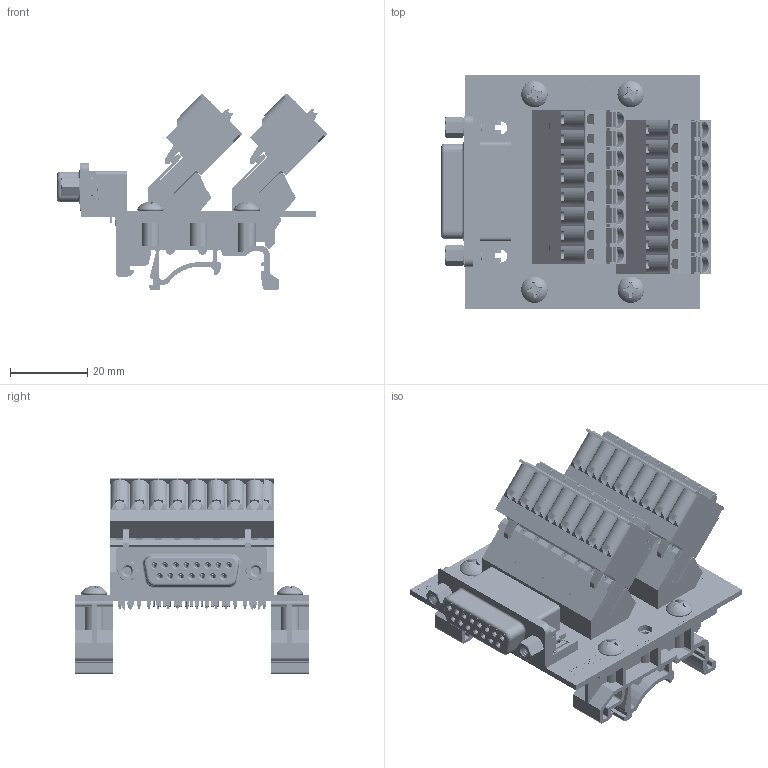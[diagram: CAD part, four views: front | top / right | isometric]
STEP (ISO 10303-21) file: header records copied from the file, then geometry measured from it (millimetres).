
FILE_DESCRIPTION (( 'STEP AP214' ), '1' );
FILE_NAME ('brkld15f-rg-din_rev_a.stp', '2021-02-09T03:27:26', ( '' ), ( '' ), 'SwSTEP 2.0', 'SolidWorks 2017', '' );
FILE_SCHEMA (( 'AUTOMOTIVE_DESIGN' ));
Length unit declared in the file: inch
Products named in the file (7): Screw_SCSMPP-6-0.375_90184A127; brkld15f-rg-din_rev_a; angled terminals 8; Female Right Angle 15 Pin Jackscrew; BRKLD15F Board; Spring Terminals 8; dinm01
Assembly tree (12 placements, depth 2):
  brkld15f-rg-din_rev_a
    BRKLD15F Board
    angled terminals 8  x2
    dinm01  x2
    Screw_SCSMPP-6-0.375_90184A127  x4
    Female Right Angle 15 Pin Jackscrew
    Spring Terminals 8  x2
Bounding box: 70.02 x 60.96 x 51.02 mm (x, y, z)
Volume: 43923.2 mm3; surface area: 43404.4 mm2
Topology: 215 solids, 215 shells, 8297 faces, 20500 edges, 12926 vertices
Faces by surface type: plane 4284, cylinder 1886, bspline 1857, cone 254, sphere 8, torus 8
Entity records: 361773 total; most frequent: CARTESIAN_POINT 129741, ORIENTED_EDGE 32788, DIRECTION 26080, EDGE_CURVE 16394, VECTOR 10548, LINE 10548, VERTEX_POINT 10292, AXIS2_PLACEMENT_3D 7766
